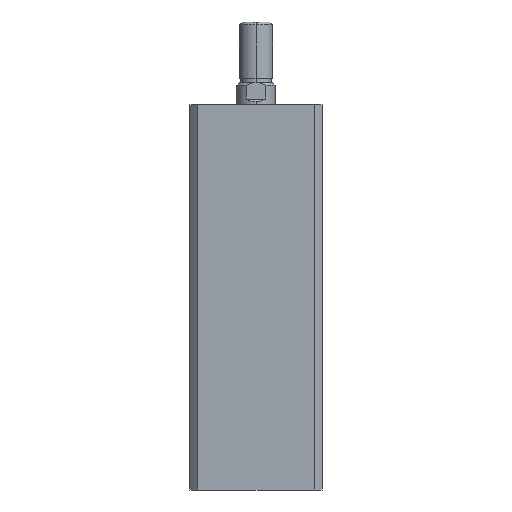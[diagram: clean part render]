
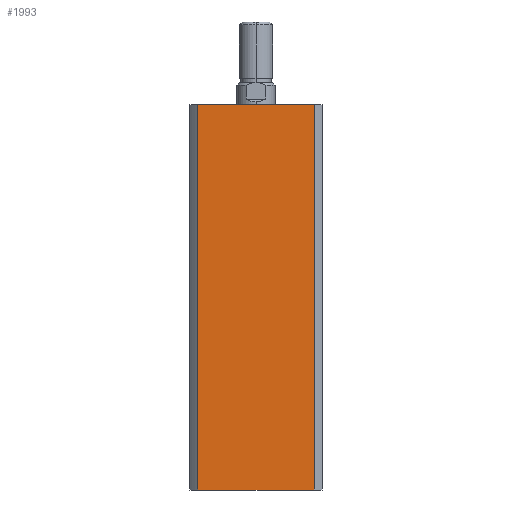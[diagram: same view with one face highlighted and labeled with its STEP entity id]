
A CAD part, left-side view. The second image highlights one B-rep face of the part: STEP entity #1993.
In plain terms, the highlighted planar face has unit normal (-1, 0, 0).
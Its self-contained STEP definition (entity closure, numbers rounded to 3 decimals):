
#8 = DIRECTION ( 'NONE',  ( 0., 0., -1. ) ) ;
#25 = DIRECTION ( 'NONE',  ( 1., 0., 0. ) ) ;
#151 = VERTEX_POINT ( 'NONE', #3734 ) ;
#157 = EDGE_CURVE ( 'NONE', #151, #4843, #4862, .T. ) ;
#158 = EDGE_CURVE ( 'NONE', #4848, #4799, #4866, .T. ) ;
#525 = LINE ( 'NONE', #2123, #527 ) ;
#527 = VECTOR ( 'NONE', #2124, 1000. ) ;
#805 = CARTESIAN_POINT ( 'NONE',  ( -24., 21.166, 0. ) ) ;
#810 = CARTESIAN_POINT ( 'NONE',  ( -24., -21.166, 140. ) ) ;
#1993 = ADVANCED_FACE ( 'NONE', ( #4947 ), #2012, .F. ) ;
#2012 = PLANE ( 'NONE',  #4045 ) ;
#2017 = CARTESIAN_POINT ( 'NONE',  ( -24., 0., 140. ) ) ;
#2123 = CARTESIAN_POINT ( 'NONE',  ( -24., 0., 140. ) ) ;
#2124 = DIRECTION ( 'NONE',  ( 0., -1., 0. ) ) ;
#2640 = CARTESIAN_POINT ( 'NONE',  ( -24., -21.166, 0. ) ) ;
#2698 = EDGE_CURVE ( 'NONE', #4843, #4799, #4992, .T. ) ;
#2701 = ORIENTED_EDGE ( 'NONE', *, *, #3846, .F. ) ;
#2702 = ORIENTED_EDGE ( 'NONE', *, *, #158, .F. ) ;
#2703 = ORIENTED_EDGE ( 'NONE', *, *, #157, .T. ) ;
#2704 = ORIENTED_EDGE ( 'NONE', *, *, #2698, .T. ) ;
#3725 = DIRECTION ( 'NONE',  ( 0., 0., -1. ) ) ;
#3730 = CARTESIAN_POINT ( 'NONE',  ( -24., 21.166, 140. ) ) ;
#3731 = CARTESIAN_POINT ( 'NONE',  ( -24., -21.166, 140. ) ) ;
#3732 = DIRECTION ( 'NONE',  ( 0., 0., -1. ) ) ;
#3734 = CARTESIAN_POINT ( 'NONE',  ( -24., 21.166, 140. ) ) ;
#3846 = EDGE_CURVE ( 'NONE', #151, #4848, #525, .T. ) ;
#4045 = AXIS2_PLACEMENT_3D ( 'NONE', #2017, #25, #8 ) ;
#4528 = CARTESIAN_POINT ( 'NONE',  ( -24., 0., 0. ) ) ;
#4535 = DIRECTION ( 'NONE',  ( 0., -1., 0. ) ) ;
#4679 = EDGE_LOOP ( 'NONE', ( #2704, #2702, #2701, #2703 ) ) ;
#4799 = VERTEX_POINT ( 'NONE', #2640 ) ;
#4843 = VERTEX_POINT ( 'NONE', #805 ) ;
#4848 = VERTEX_POINT ( 'NONE', #810 ) ;
#4860 = VECTOR ( 'NONE', #3725, 1000. ) ;
#4862 = LINE ( 'NONE', #3730, #4865 ) ;
#4865 = VECTOR ( 'NONE', #3732, 1000. ) ;
#4866 = LINE ( 'NONE', #3731, #4860 ) ;
#4947 = FACE_OUTER_BOUND ( 'NONE', #4679, .T. ) ;
#4992 = LINE ( 'NONE', #4528, #4998 ) ;
#4998 = VECTOR ( 'NONE', #4535, 1000. ) ;
